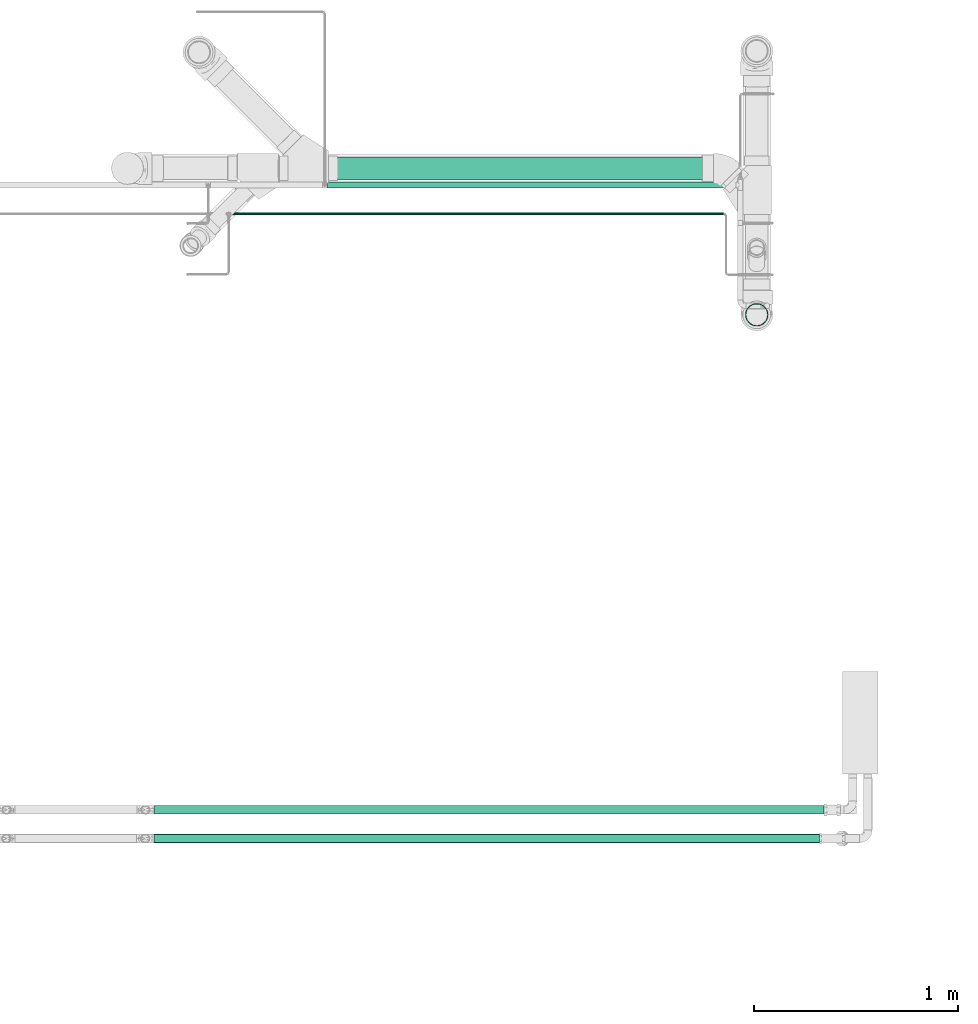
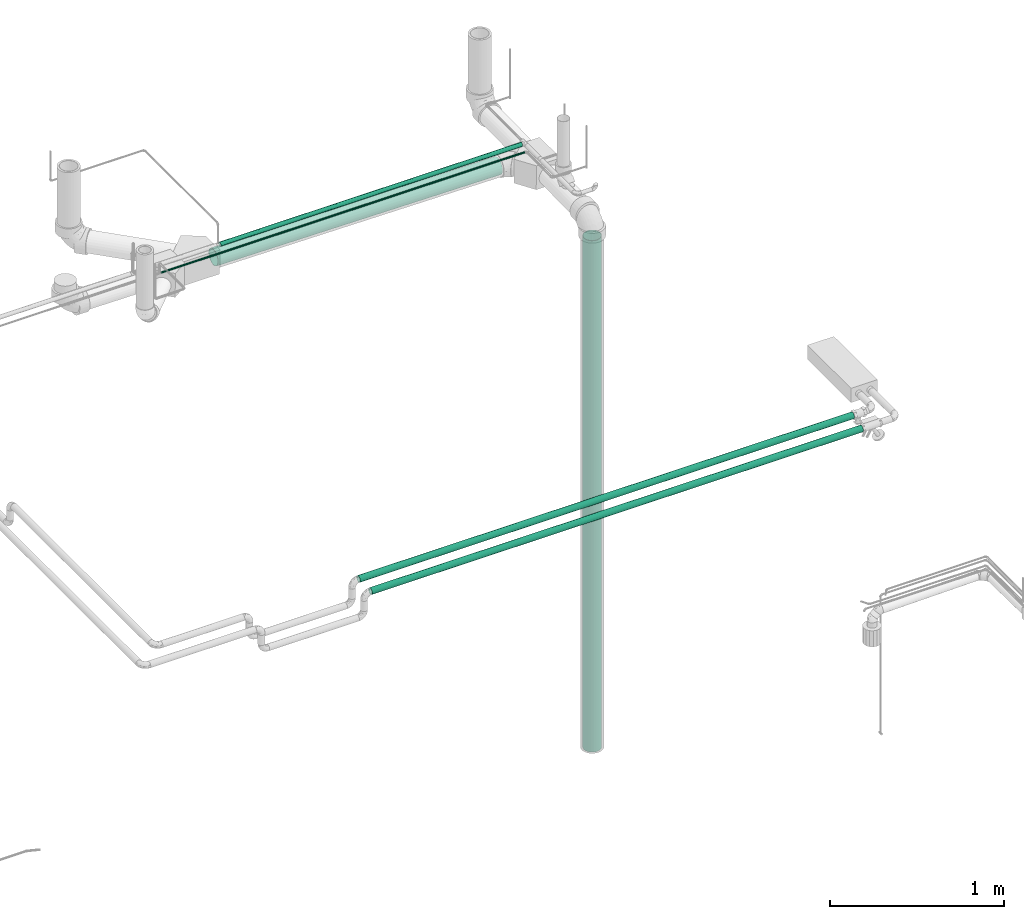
# One storey, part 24 of 108: 6 flow segments.
"""IFC2X3 building model written with IfcOpenShell, lengths in millimetres."""

from ifc_helpers import new_model, entity, si_unit, converted_unit, derived_unit, direction, frame, origin_with_axes, origin_2d_with_axis, place, context, subcontext, project, spatial, hollow_circle, extrude, source, transform, mapped, type_object, element, save


model = new_model("IFC2X3")

# Units and contexts
model_context = context("Model", 3, precision=0.01, world=frame((0.0, 4.29681676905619e-09, 0.0)), true_north=direction((4.01073788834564e-13, 1.0)))
plan_context = context("Plan", 3, precision=0.01, world=frame((0.0, 4.29681676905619e-09, 0.0)), true_north=direction((4.01073788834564e-13, 1.0)))
body_context = subcontext(model_context, "Body", "Model", "MODEL_VIEW")
ifc_project = project(units=[converted_unit("PLANEANGLEUNIT", "DEGREE", entity("IfcPositiveLengthMeasure", 0.0174532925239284), si_unit("PLANEANGLEUNIT", "RADIAN"), dimensions=[0, 0, 0, 0, 0, 0, 0]), si_unit("AREAUNIT", "SQUARE_METRE"), si_unit("LENGTHUNIT", "METRE", prefix="MILLI"), si_unit("MASSUNIT", "GRAM", prefix="KILO"), si_unit("POWERUNIT", "WATT"), si_unit("PRESSUREUNIT", "PASCAL", prefix="KILO"), si_unit("FORCEUNIT", "NEWTON", prefix="KILO"), si_unit("ELECTRICVOLTAGEUNIT", "VOLT"), si_unit("ELECTRICCURRENTUNIT", "AMPERE"), si_unit("THERMODYNAMICTEMPERATUREUNIT", "DEGREE_CELSIUS"), si_unit("TIMEUNIT", "SECOND"), si_unit("VOLUMEUNIT", "CUBIC_METRE"), derived_unit("LINEARVELOCITYUNIT", [(si_unit("LENGTHUNIT", "METRE"), 1), (si_unit("TIMEUNIT", "SECOND"), -1)]), derived_unit("VOLUMETRICFLOWRATEUNIT", [(si_unit("VOLUMEUNIT", "CUBIC_METRE"), 1), (si_unit("TIMEUNIT", "SECOND"), -1)]), derived_unit("THERMALTRANSMITTANCEUNIT", [(si_unit("POWERUNIT", "WATT"), 1), (si_unit("THERMODYNAMICTEMPERATUREUNIT", "KELVIN"), -1), (si_unit("AREAUNIT", "SQUARE_METRE"), -1)]), derived_unit("SOUNDPRESSUREUNIT", [(si_unit("PRESSUREUNIT", "PASCAL"), 1)])], contexts=[model_context, plan_context])

# Site, building, storey
site_placement = place(None, frame((0.0, -4.29681676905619e-09, 0.0), z_axis=(0.0, 0.0, 1.0), x_axis=(1.0, 0.0, 0.0)))
site = spatial("IfcSite", under=ifc_project, at=site_placement, CompositionType="ELEMENT")
building_placement = place(site_placement, frame((0.0, 4.29681676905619e-09, 0.0), z_axis=(0.0, 0.0, 1.0), x_axis=(1.0, 0.0, 0.0)))
building = spatial("IfcBuilding", under=site, at=building_placement, Name="mc-building", CompositionType="ELEMENT")
storey_placement = place(building_placement, frame((0.0, 0.0, 210200.0), z_axis=(0.0, 0.0, 1.0), x_axis=(1.0, 0.0, 0.0)))
storey = spatial("IfcBuildingStorey", under=building, at=storey_placement, Name="Nivå F - 0,7 m", CompositionType="ELEMENT", Elevation=210200.0)

# Flow segments
pipe_segment_type_1 = type_object("IfcPipeSegmentType", Name="MA", PredefinedType="RIGIDSEGMENT")
shared_shape_1 = source(origin_with_axes(), body_context, "Body", "SweptSolid", [
    extrude(hollow_circle(Radius=55.0, WallThickness=2.0, at=origin_2d_with_axis()), frame((0.0, 0.0, 0.0), z_axis=(1.0, 0.0, 0.0), x_axis=(0.0, 1.0, 0.0)), (0.0, 0.0, 1.0), 3582.3),
])
flow_segment_1_placement = place(storey_placement, frame((328906.4829, 462815.28789, 2945.8132), z_axis=(0.0, 1.0, 0.0), x_axis=(0.0, 0.0, -1.0)))
element("IfcFlowSegment", 1, at=flow_segment_1_placement, inside=storey, type_object=pipe_segment_type_1, Name="MA", context=body_context, shape_type="MappedRepresentation", body=[
    mapped(shared_shape_1, transform((0.0, 0.0, 0.0), scale=1.0)),
])
pipe_segment_type_2 = type_object("IfcPipeSegmentType", Name="Stålrør normaltykke", PredefinedType="RIGIDSEGMENT")
shared_shape_2 = source(origin_with_axes(), body_context, "Body", "SweptSolid", [
    extrude(hollow_circle(Radius=21.2, WallThickness=2.0, at=origin_2d_with_axis()), frame((0.0, 0.0, 0.0), z_axis=(1.0, 0.0, 0.0), x_axis=(0.0, 1.0, 0.0)), (0.0, 0.0, 1.0), 3274.4),
])
flow_segment_2_placement = place(storey_placement, frame((329234.375, 460394.12277, 3038.28479999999), z_axis=(0.0, 0.0, 1.0), x_axis=(-1.0, 0.0, 0.0)))
element("IfcFlowSegment", 2, at=flow_segment_2_placement, inside=storey, type_object=pipe_segment_type_2, Name="Stålrør normaltykke", context=body_context, shape_type="MappedRepresentation", body=[
    mapped(shared_shape_2, transform((0.0, 0.0, 0.0), scale=1.0)),
])
shared_shape_3 = source(origin_with_axes(), body_context, "Body", "SweptSolid", [
    extrude(hollow_circle(Radius=21.2, WallThickness=2.0, at=origin_2d_with_axis()), frame((0.0, 0.0, 0.0), z_axis=(1.0, 0.0, 0.0), x_axis=(0.0, 1.0, 0.0)), (0.0, 0.0, 1.0), 3254.2),
])
flow_segment_3_placement = place(storey_placement, frame((329212.875, 460254.12277, 3038.28479999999), z_axis=(0.0, 0.0, 1.0), x_axis=(-1.0, 0.0, 0.0)))
element("IfcFlowSegment", 3, at=flow_segment_3_placement, inside=storey, type_object=pipe_segment_type_2, Name="Stålrør normaltykke", context=body_context, shape_type="MappedRepresentation", body=[
    mapped(shared_shape_3, transform((0.0, 0.0, 0.0), scale=1.0)),
])
shared_shape_4 = source(origin_with_axes(), body_context, "Body", "SweptSolid", [
    extrude(hollow_circle(Radius=55.0, WallThickness=2.0, at=origin_2d_with_axis()), frame((0.0, 0.0, 0.0), z_axis=(1.0, 0.0, 0.0), x_axis=(0.0, 1.0, 0.0)), (0.0, 0.0, 1.0), 1884.6),
])
flow_segment_4_placement = place(storey_placement, frame((326810.56172, 463531.64264, 3092.85264), z_axis=(-4.20000147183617e-05, -0.99999135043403, -0.00415900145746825), x_axis=(0.999950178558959, -4.82758079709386e-07, -0.00998200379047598)))
element("IfcFlowSegment", 4, at=flow_segment_4_placement, inside=storey, type_object=pipe_segment_type_1, Name="MA", context=body_context, shape_type="MappedRepresentation", body=[
    mapped(shared_shape_4, transform((0.0, 0.0, 0.0), scale=1.0)),
])
pipe_segment_type_3 = type_object("IfcPipeSegmentType", Name="Kobberrør", PredefinedType="RIGIDSEGMENT")
shared_shape_5 = source(origin_with_axes(), body_context, "Body", "SweptSolid", [
    extrude(hollow_circle(Radius=14.0, WallThickness=2.0, at=origin_2d_with_axis()), frame((0.0, 0.0, 0.0), z_axis=(1.0, 0.0, 0.0), x_axis=(0.0, 1.0, 0.0)), (0.0, 0.0, 1.0), 1999.0),
])
flow_segment_5_placement = place(storey_placement, frame((326805.72018, 463450.0, 3233.60013000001), z_axis=(0.0, 0.0, 1.0), x_axis=(1.0, 0.0, 0.0)))
element("IfcFlowSegment", 5, at=flow_segment_5_placement, inside=storey, type_object=pipe_segment_type_3, Name="Kobberrør", context=body_context, shape_type="MappedRepresentation", body=[
    mapped(shared_shape_5, transform((0.0, 0.0, 0.0), scale=1.0)),
])
shared_shape_6 = source(origin_with_axes(), body_context, "Body", "SweptSolid", [
    extrude(hollow_circle(Radius=6.0, WallThickness=2.0, at=origin_2d_with_axis()), frame((0.0, 0.0, 0.0), z_axis=(1.0, 0.0, 0.0), x_axis=(0.0, 1.0, 0.0)), (0.0, 0.0, 1.0), 2408.0),
])
flow_segment_6_placement = place(storey_placement, frame((326336.00629, 463310.0, 3284.41390000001), z_axis=(0.0, 0.0, 1.0), x_axis=(1.0, 0.0, 0.0)))
element("IfcFlowSegment", 6, at=flow_segment_6_placement, inside=storey, type_object=pipe_segment_type_3, Name="Kobberrør", context=body_context, shape_type="MappedRepresentation", body=[
    mapped(shared_shape_6, transform((0.0, 0.0, 0.0), scale=1.0)),
])

save(model, "model.ifc")
